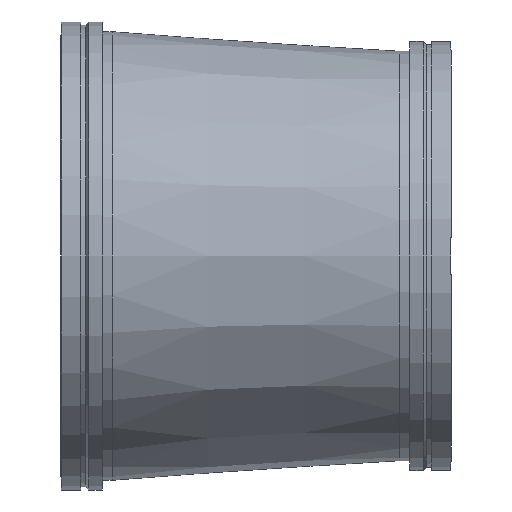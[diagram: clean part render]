
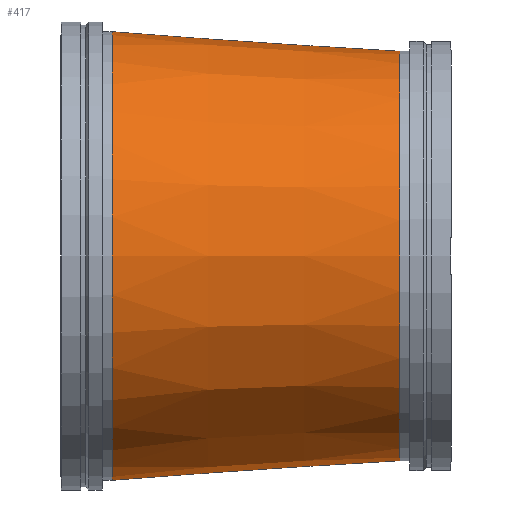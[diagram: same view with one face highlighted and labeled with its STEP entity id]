
A CAD part, front view. The second image highlights one B-rep face of the part: STEP entity #417.
In plain terms, the highlighted conical face has half-angle 3.879 degrees and reference radius 558.8 mm.
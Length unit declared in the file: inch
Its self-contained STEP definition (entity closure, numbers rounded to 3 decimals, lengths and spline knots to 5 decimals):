
#46=CONICAL_SURFACE('',#475,22.,0.068);
#54=LINE('',#739,#68);
#68=VECTOR('',#587,22.);
#101=FACE_OUTER_BOUND('',#124,.T.);
#124=EDGE_LOOP('',(#315,#316,#317,#318,#319,#320));
#155=CIRCLE('',#473,23.);
#156=CIRCLE('',#474,23.);
#157=CIRCLE('',#476,21.);
#158=CIRCLE('',#477,21.);
#195=VERTEX_POINT('',#729);
#196=VERTEX_POINT('',#730);
#197=VERTEX_POINT('',#735);
#198=VERTEX_POINT('',#736);
#239=EDGE_CURVE('',#195,#196,#155,.T.);
#240=EDGE_CURVE('',#196,#195,#156,.T.);
#242=EDGE_CURVE('',#197,#198,#157,.T.);
#243=EDGE_CURVE('',#198,#197,#158,.T.);
#244=EDGE_CURVE('',#198,#196,#54,.T.);
#315=ORIENTED_EDGE('',*,*,#242,.F.);
#316=ORIENTED_EDGE('',*,*,#243,.F.);
#317=ORIENTED_EDGE('',*,*,#244,.T.);
#318=ORIENTED_EDGE('',*,*,#240,.T.);
#319=ORIENTED_EDGE('',*,*,#239,.T.);
#320=ORIENTED_EDGE('',*,*,#244,.F.);
#417=ADVANCED_FACE('',(#101),#46,.T.);
#473=AXIS2_PLACEMENT_3D('',#731,#576,#577);
#474=AXIS2_PLACEMENT_3D('',#732,#578,#579);
#475=AXIS2_PLACEMENT_3D('',#734,#581,#582);
#476=AXIS2_PLACEMENT_3D('',#737,#583,#584);
#477=AXIS2_PLACEMENT_3D('',#738,#585,#586);
#576=DIRECTION('center_axis',(1.,0.,0.));
#577=DIRECTION('ref_axis',(0.,0.,-1.));
#578=DIRECTION('center_axis',(1.,0.,0.));
#579=DIRECTION('ref_axis',(0.,0.,-1.));
#581=DIRECTION('center_axis',(-1.,0.,0.));
#582=DIRECTION('ref_axis',(0.,1.,0.));
#583=DIRECTION('center_axis',(1.,0.,0.));
#584=DIRECTION('ref_axis',(0.,0.,-1.));
#585=DIRECTION('center_axis',(1.,0.,0.));
#586=DIRECTION('ref_axis',(0.,0.,-1.));
#587=DIRECTION('',(-0.998,-0.068,0.));
#729=CARTESIAN_POINT('',(5.25,23.,0.));
#730=CARTESIAN_POINT('',(5.25,-23.,0.));
#731=CARTESIAN_POINT('Origin',(5.25,0.,0.));
#732=CARTESIAN_POINT('Origin',(5.25,0.,0.));
#734=CARTESIAN_POINT('Origin',(20.,0.,0.));
#735=CARTESIAN_POINT('',(34.75,21.,0.));
#736=CARTESIAN_POINT('',(34.75,-21.,0.));
#737=CARTESIAN_POINT('Origin',(34.75,0.,0.));
#738=CARTESIAN_POINT('Origin',(34.75,0.,0.));
#739=CARTESIAN_POINT('',(20.,-22.,0.));
